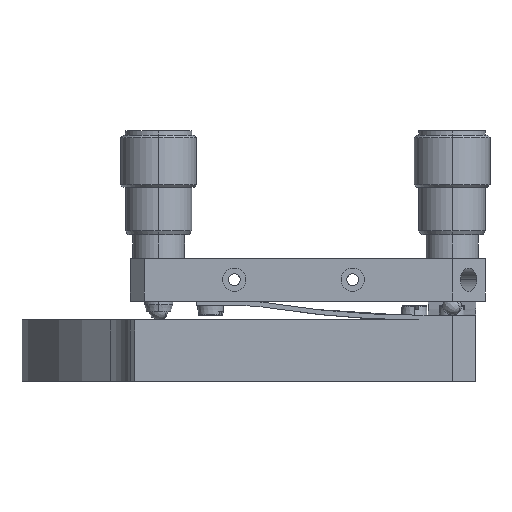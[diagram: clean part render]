
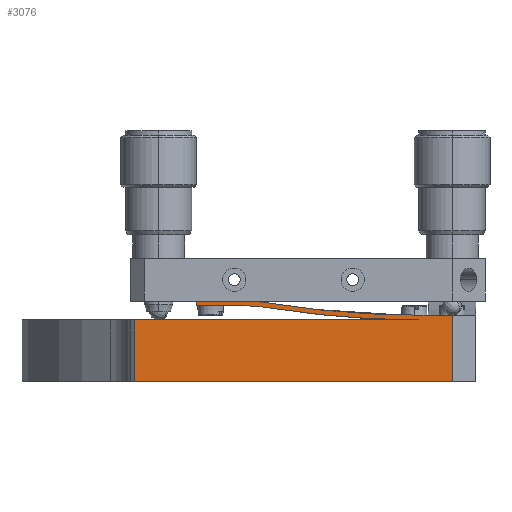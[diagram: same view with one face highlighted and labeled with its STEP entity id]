
A CAD part, left-side view. The second image highlights one B-rep face of the part: STEP entity #3076.
In plain terms, the highlighted planar face has unit normal (-1, 0, 0).
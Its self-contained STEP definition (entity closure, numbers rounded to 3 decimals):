
#2861 = VERTEX_POINT ( 'NONE', #15707 ) ;
#2891 = VERTEX_POINT ( 'NONE', #15846 ) ;
#2914 = EDGE_CURVE ( 'NONE', #2933, #2861, #15982, .T. ) ;
#2933 = VERTEX_POINT ( 'NONE', #16041 ) ;
#2959 = EDGE_CURVE ( 'NONE', #2961, #2966, #16178, .T. ) ;
#2961 = VERTEX_POINT ( 'NONE', #16170 ) ;
#2966 = VERTEX_POINT ( 'NONE', #16157 ) ;
#3076 = ADVANCED_FACE ( 'NONE', ( #21629 ), #21628, .T. ) ;
#3077 = ORIENTED_EDGE ( 'NONE', *, *, #3078, .T. ) ;
#3078 = EDGE_CURVE ( 'NONE', #2966, #2891, #21683, .T. ) ;
#3080 = EDGE_CURVE ( 'NONE', #3159, #2961, #21678, .T. ) ;
#3081 = ORIENTED_EDGE ( 'NONE', *, *, #2959, .T. ) ;
#3083 = EDGE_LOOP ( 'NONE', ( #3085, #3081, #3077, #3156, #3151, #3153, #3154, #3143, #3146, #3139, #3130, #3134 ) ) ;
#3085 = ORIENTED_EDGE ( 'NONE', *, *, #3080, .T. ) ;
#3129 = EDGE_CURVE ( 'NONE', #3141, #3148, #21745, .T. ) ;
#3130 = ORIENTED_EDGE ( 'NONE', *, *, #3140, .T. ) ;
#3131 = VERTEX_POINT ( 'NONE', #21733 ) ;
#3132 = EDGE_CURVE ( 'NONE', #3131, #3159, #21732, .T. ) ;
#3134 = ORIENTED_EDGE ( 'NONE', *, *, #3132, .T. ) ;
#3139 = ORIENTED_EDGE ( 'NONE', *, *, #3129, .F. ) ;
#3140 = EDGE_CURVE ( 'NONE', #3141, #3131, #21781, .T. ) ;
#3141 = VERTEX_POINT ( 'NONE', #21764 ) ;
#3142 = EDGE_CURVE ( 'NONE', #3145, #3147, #21763, .T. ) ;
#3143 = ORIENTED_EDGE ( 'NONE', *, *, #3142, .T. ) ;
#3145 = VERTEX_POINT ( 'NONE', #21757 ) ;
#3146 = ORIENTED_EDGE ( 'NONE', *, *, #3149, .T. ) ;
#3147 = VERTEX_POINT ( 'NONE', #21756 ) ;
#3148 = VERTEX_POINT ( 'NONE', #21755 ) ;
#3149 = EDGE_CURVE ( 'NONE', #3147, #3148, #21754, .T. ) ;
#3150 = EDGE_CURVE ( 'NONE', #2891, #3157, #21750, .T. ) ;
#3151 = ORIENTED_EDGE ( 'NONE', *, *, #3152, .T. ) ;
#3152 = EDGE_CURVE ( 'NONE', #3157, #2933, #21809, .T. ) ;
#3153 = ORIENTED_EDGE ( 'NONE', *, *, #2914, .T. ) ;
#3154 = ORIENTED_EDGE ( 'NONE', *, *, #3155, .T. ) ;
#3155 = EDGE_CURVE ( 'NONE', #2861, #3145, #21805, .T. ) ;
#3156 = ORIENTED_EDGE ( 'NONE', *, *, #3150, .T. ) ;
#3157 = VERTEX_POINT ( 'NONE', #21800 ) ;
#3159 = VERTEX_POINT ( 'NONE', #21795 ) ;
#15707 = CARTESIAN_POINT ( 'NONE',  ( -52.56, -28.333, -27.222 ) ) ;
#15846 = CARTESIAN_POINT ( 'NONE',  ( -52.56, 31.667, -41.222 ) ) ;
#15978 = DIRECTION ( 'NONE',  ( 0., 1., 0. ) ) ;
#15979 = VECTOR ( 'NONE', #15978, 1000. ) ;
#15981 = CARTESIAN_POINT ( 'NONE',  ( -52.56, 55.667, -27.222 ) ) ;
#15982 = LINE ( 'NONE', #15981, #15979 ) ;
#16041 = CARTESIAN_POINT ( 'NONE',  ( -52.56, -35.333, -27.222 ) ) ;
#16157 = CARTESIAN_POINT ( 'NONE',  ( -52.56, 31.667, -28.222 ) ) ;
#16170 = CARTESIAN_POINT ( 'NONE',  ( -52.56, -28.333, -28.222 ) ) ;
#16172 = DIRECTION ( 'NONE',  ( 0., 1., 0. ) ) ;
#16174 = VECTOR ( 'NONE', #16172, 1000. ) ;
#16176 = CARTESIAN_POINT ( 'NONE',  ( -52.56, 7.667, -28.222 ) ) ;
#16178 = LINE ( 'NONE', #16176, #16174 ) ;
#21625 = DIRECTION ( 'NONE',  ( -1., 0., 0. ) ) ;
#21626 = CARTESIAN_POINT ( 'NONE',  ( -52.56, 55.667, -28.222 ) ) ;
#21627 = AXIS2_PLACEMENT_3D ( 'NONE', #21626, #21625, #21684 ) ;
#21628 = PLANE ( 'NONE',  #21627 ) ;
#21629 = FACE_OUTER_BOUND ( 'NONE', #3083, .T. ) ;
#21674 = DIRECTION ( 'NONE',  ( 0., -1., 0. ) ) ;
#21675 = DIRECTION ( 'NONE',  ( -1., 0., 0. ) ) ;
#21676 = CARTESIAN_POINT ( 'NONE',  ( -52.56, -28.333, 168.67 ) ) ;
#21677 = AXIS2_PLACEMENT_3D ( 'NONE', #21676, #21675, #21674 ) ;
#21678 = CIRCLE ( 'NONE', #21677, 196.892 ) ;
#21680 = DIRECTION ( 'NONE',  ( 0., 0., -1. ) ) ;
#21681 = VECTOR ( 'NONE', #21680, 1000. ) ;
#21682 = CARTESIAN_POINT ( 'NONE',  ( -52.56, 31.667, -28.222 ) ) ;
#21683 = LINE ( 'NONE', #21682, #21681 ) ;
#21684 = DIRECTION ( 'NONE',  ( 0., -1., 0. ) ) ;
#21728 = DIRECTION ( 'NONE',  ( 0., 1., 0. ) ) ;
#21729 = DIRECTION ( 'NONE',  ( 1., 0., 0. ) ) ;
#21730 = CARTESIAN_POINT ( 'NONE',  ( -52.56, 9.921, -72.388 ) ) ;
#21731 = AXIS2_PLACEMENT_3D ( 'NONE', #21730, #21729, #21728 ) ;
#21732 = CIRCLE ( 'NONE', #21731, 47.183 ) ;
#21733 = CARTESIAN_POINT ( 'NONE',  ( -52.56, 8.673, -25.222 ) ) ;
#21734 = VECTOR ( 'NONE', #21743, 1000. ) ;
#21743 = DIRECTION ( 'NONE',  ( 0., 0., 1. ) ) ;
#21744 = CARTESIAN_POINT ( 'NONE',  ( -52.56, 18.667, -24.472 ) ) ;
#21745 = LINE ( 'NONE', #21744, #21734 ) ;
#21747 = DIRECTION ( 'NONE',  ( 0., -1., 0. ) ) ;
#21748 = VECTOR ( 'NONE', #21747, 1000. ) ;
#21749 = CARTESIAN_POINT ( 'NONE',  ( -52.56, 55.667, -41.222 ) ) ;
#21750 = LINE ( 'NONE', #21749, #21748 ) ;
#21751 = DIRECTION ( 'NONE',  ( 0., 1., 0. ) ) ;
#21752 = VECTOR ( 'NONE', #21751, 1000. ) ;
#21753 = CARTESIAN_POINT ( 'NONE',  ( -52.56, 55.667, -24.253 ) ) ;
#21754 = LINE ( 'NONE', #21753, #21752 ) ;
#21755 = CARTESIAN_POINT ( 'NONE',  ( -52.56, 18.667, -24.253 ) ) ;
#21756 = CARTESIAN_POINT ( 'NONE',  ( -52.56, 7.765, -24.253 ) ) ;
#21757 = CARTESIAN_POINT ( 'NONE',  ( -52.56, 2.37, -24.801 ) ) ;
#21759 = DIRECTION ( 'NONE',  ( 0., 1., 0. ) ) ;
#21760 = DIRECTION ( 'NONE',  ( -1., 0., 0. ) ) ;
#21761 = CARTESIAN_POINT ( 'NONE',  ( -52.56, 9.921, -72.388 ) ) ;
#21762 = AXIS2_PLACEMENT_3D ( 'NONE', #21761, #21760, #21759 ) ;
#21763 = CIRCLE ( 'NONE', #21762, 48.183 ) ;
#21764 = CARTESIAN_POINT ( 'NONE',  ( -52.56, 18.667, -25.222 ) ) ;
#21765 = DIRECTION ( 'NONE',  ( 0., -1., 0. ) ) ;
#21766 = VECTOR ( 'NONE', #21765, 1000. ) ;
#21780 = CARTESIAN_POINT ( 'NONE',  ( -52.56, 55.667, -25.222 ) ) ;
#21781 = LINE ( 'NONE', #21780, #21766 ) ;
#21795 = CARTESIAN_POINT ( 'NONE',  ( -52.56, 2.526, -25.788 ) ) ;
#21800 = CARTESIAN_POINT ( 'NONE',  ( -52.56, -35.333, -41.222 ) ) ;
#21801 = DIRECTION ( 'NONE',  ( 0., -1., 0. ) ) ;
#21802 = DIRECTION ( 'NONE',  ( 1., 0., 0. ) ) ;
#21803 = CARTESIAN_POINT ( 'NONE',  ( -52.56, -28.333, 168.67 ) ) ;
#21804 = AXIS2_PLACEMENT_3D ( 'NONE', #21803, #21802, #21801 ) ;
#21805 = CIRCLE ( 'NONE', #21804, 195.892 ) ;
#21806 = DIRECTION ( 'NONE',  ( 0., 0., 1. ) ) ;
#21807 = VECTOR ( 'NONE', #21806, 1000. ) ;
#21808 = CARTESIAN_POINT ( 'NONE',  ( -52.56, -35.333, -28.222 ) ) ;
#21809 = LINE ( 'NONE', #21808, #21807 ) ;
